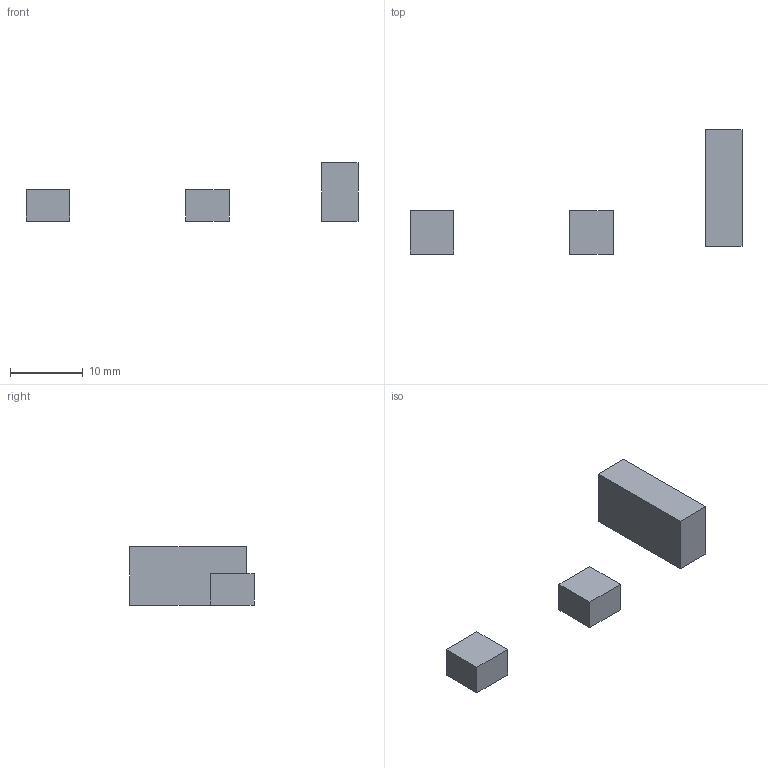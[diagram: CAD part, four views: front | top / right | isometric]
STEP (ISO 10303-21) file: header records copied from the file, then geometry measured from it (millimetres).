
FILE_DESCRIPTION(('Open CASCADE Model'),'2;1');
FILE_NAME('Open CASCADE Shape Model','2026-11-05T02:23:55',('Author'),( 'Open CASCADE'),'Open CASCADE STEP processor 7.8','Open CASCADE 7.8' ,'Unknown');
FILE_SCHEMA(('AUTOMOTIVE_DESIGN { 1 0 10303 214 1 1 1 1 }'));
Length unit declared in the file: millimetre
Products named in the file (4): Open CASCADE STEP translator 7.8 25; Open CASCADE STEP translator 7.8 25.1; Open CASCADE STEP translator 7.8 25.2; Open CASCADE STEP translator 7.8 25.3
Assembly tree (3 placements, depth 2):
  Open CASCADE STEP translator 7.8 25
    Open CASCADE STEP translator 7.8 25.1
    Open CASCADE STEP translator 7.8 25.2
    Open CASCADE STEP translator 7.8 25.3
Bounding box: 45.75 x 17.1 x 8 mm (x, y, z)
Volume: 949.6 mm3; surface area: 846.4 mm2
Topology: 3 solids, 3 shells, 18 faces, 36 edges, 24 vertices
Faces by surface type: plane 18
Entity records: 988 total; most frequent: CARTESIAN_POINT 154, DIRECTION 152, LINE 108, VECTOR 108, ORIENTED_EDGE 72, PCURVE 72, DEFINITIONAL_REPRESENTATION 72, EDGE_CURVE 36
